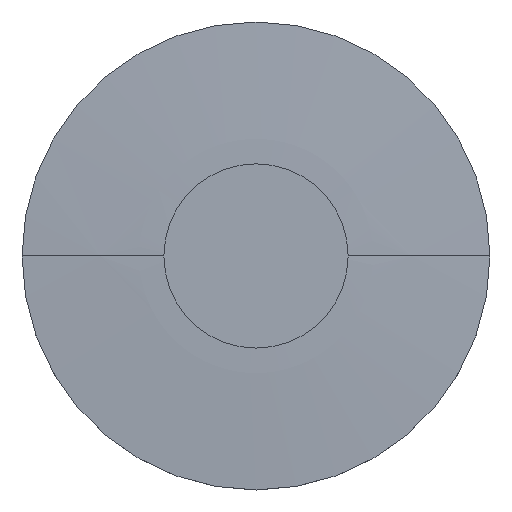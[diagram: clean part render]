
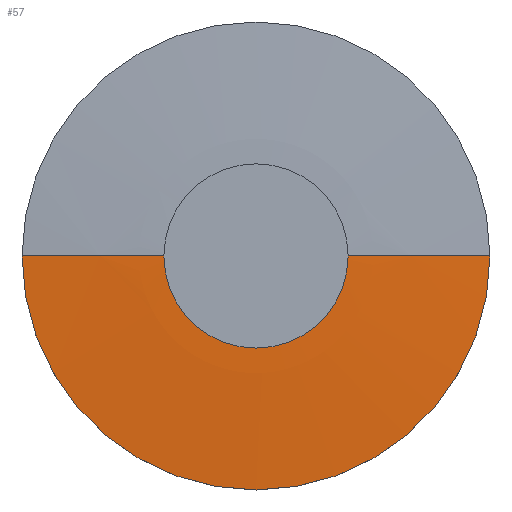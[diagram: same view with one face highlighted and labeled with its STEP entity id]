
A CAD part, top view. The second image highlights one B-rep face of the part: STEP entity #57.
In plain terms, the highlighted spherical face has radius 424.088 mm.
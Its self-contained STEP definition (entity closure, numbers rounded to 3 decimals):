
#57=ADVANCED_FACE('',(#71),#72,.T.);
#71=FACE_OUTER_BOUND('',#91,.T.);
#72=SPHERICAL_SURFACE('',#92,424.088);
#91=EDGE_LOOP('',(#124,#125,#126));
#92=AXIS2_PLACEMENT_3D('',#127,#128,#129);
#124=ORIENTED_EDGE('',*,*,#173,.T.);
#125=ORIENTED_EDGE('',*,*,#174,.T.);
#126=ORIENTED_EDGE('',*,*,#175,.T.);
#127=CARTESIAN_POINT('',(0.0,0.0,-417.088));
#128=DIRECTION('',(0.0,0.0,1.0));
#129=DIRECTION('',(1.0,0.0,0.0));
#173=EDGE_CURVE('',#189,#194,#195,.T.);
#174=EDGE_CURVE('',#194,#191,#196,.T.);
#175=EDGE_CURVE('',#191,#189,#197,.T.);
#189=VERTEX_POINT('',#215);
#191=VERTEX_POINT('',#218);
#194=VERTEX_POINT('',#222);
#195=CIRCLE('',#223,424.088);
#196=CIRCLE('',#224,424.088);
#197=CIRCLE('',#225,25.4);
#215=CARTESIAN_POINT('',(25.4,0.,6.239));
#218=CARTESIAN_POINT('',(-25.4,0.,6.239));
#222=CARTESIAN_POINT('',(0.0,0.0,7.0));
#223=AXIS2_PLACEMENT_3D('',#253,#254,#255);
#224=AXIS2_PLACEMENT_3D('',#256,#257,#258);
#225=AXIS2_PLACEMENT_3D('',#259,#260,#261);
#253=CARTESIAN_POINT('',(0.0,0.0,-417.088));
#254=DIRECTION('',(0.,-1.0,0.0));
#255=DIRECTION('',(0.0,0.0,1.0));
#256=CARTESIAN_POINT('',(0.0,0.0,-417.088));
#257=DIRECTION('',(0.,-1.0,0.0));
#258=DIRECTION('',(0.0,0.0,1.0));
#259=CARTESIAN_POINT('',(0.0,0.0,6.239));
#260=DIRECTION('',(0.0,0.0,1.0));
#261=DIRECTION('',(1.0,0.0,0.0));
